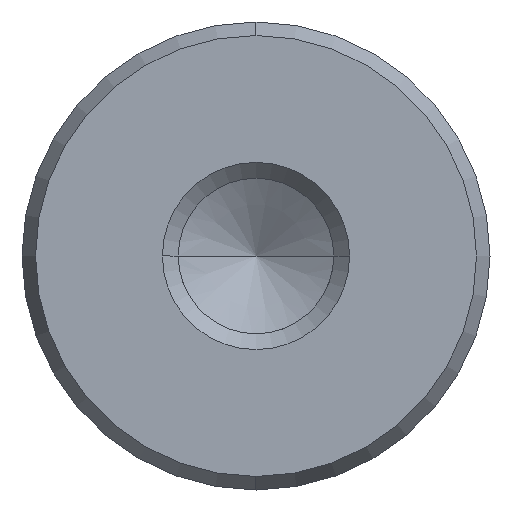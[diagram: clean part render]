
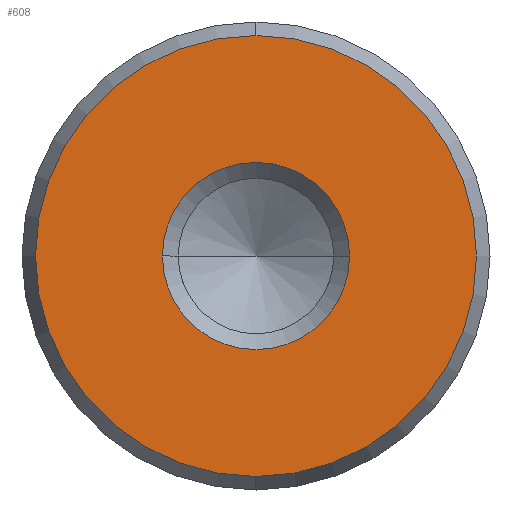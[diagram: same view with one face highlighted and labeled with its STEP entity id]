
A CAD part, left-side view. The second image highlights one B-rep face of the part: STEP entity #608.
In plain terms, the highlighted planar face has unit normal (-1, 0, 0).
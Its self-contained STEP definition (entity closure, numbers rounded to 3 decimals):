
#522=CARTESIAN_POINT('Vertex',(0.,0.,-9.423)) ;
#525=CARTESIAN_POINT('Axis2P3D Location',(0.,0.,0.)) ;
#529=CARTESIAN_POINT('Vertex',(0.,9.423,0.)) ;
#532=CARTESIAN_POINT('Axis2P3D Location',(0.,0.,0.)) ;
#536=CARTESIAN_POINT('Vertex',(0.,0.,9.423)) ;
#558=CARTESIAN_POINT('Axis2P3D Location',(0.,0.,0.)) ;
#562=CARTESIAN_POINT('Vertex',(0.,-9.423,0.)) ;
#565=CARTESIAN_POINT('Axis2P3D Location',(0.,0.,0.)) ;
#579=CARTESIAN_POINT('Axis2P3D Location',(0.,0.,0.)) ;
#590=CARTESIAN_POINT('Axis2P3D Location',(0.,0.,0.)) ;
#594=CARTESIAN_POINT('Vertex',(0.,4.,0.)) ;
#596=CARTESIAN_POINT('Vertex',(0.,-4.,0.)) ;
#599=CARTESIAN_POINT('Axis2P3D Location',(0.,0.,0.)) ;
#526=DIRECTION('Axis2P3D Direction',(1.,0.,-0.)) ;
#533=DIRECTION('Axis2P3D Direction',(1.,0.,-0.)) ;
#559=DIRECTION('Axis2P3D Direction',(1.,0.,-0.)) ;
#566=DIRECTION('Axis2P3D Direction',(1.,0.,-0.)) ;
#580=DIRECTION('Axis2P3D Direction',(1.,0.,-0.)) ;
#581=DIRECTION('Axis2P3D XDirection',(-0.,0.,-1.)) ;
#591=DIRECTION('Axis2P3D Direction',(1.,0.,-0.)) ;
#600=DIRECTION('Axis2P3D Direction',(1.,0.,-0.)) ;
#527=AXIS2_PLACEMENT_3D('Circle Axis2P3D',#525,#526,$) ;
#534=AXIS2_PLACEMENT_3D('Circle Axis2P3D',#532,#533,$) ;
#560=AXIS2_PLACEMENT_3D('Circle Axis2P3D',#558,#559,$) ;
#567=AXIS2_PLACEMENT_3D('Circle Axis2P3D',#565,#566,$) ;
#582=AXIS2_PLACEMENT_3D('Plane Axis2P3D',#579,#580,#581) ;
#592=AXIS2_PLACEMENT_3D('Circle Axis2P3D',#590,#591,$) ;
#601=AXIS2_PLACEMENT_3D('Circle Axis2P3D',#599,#600,$) ;
#585=ORIENTED_EDGE('',*,*,#531,.F.) ;
#586=ORIENTED_EDGE('',*,*,#569,.F.) ;
#587=ORIENTED_EDGE('',*,*,#564,.F.) ;
#588=ORIENTED_EDGE('',*,*,#538,.F.) ;
#605=ORIENTED_EDGE('',*,*,#598,.T.) ;
#606=ORIENTED_EDGE('',*,*,#603,.T.) ;
#607=FACE_BOUND('',#604,.T.) ;
#608=ADVANCED_FACE('720-20x200',(#589,#607),#583,.F.) ;
#528=CIRCLE('generated circle',#527,9.423) ;
#535=CIRCLE('generated circle',#534,9.423) ;
#561=CIRCLE('generated circle',#560,9.423) ;
#568=CIRCLE('generated circle',#567,9.423) ;
#593=CIRCLE('generated circle',#592,4.) ;
#602=CIRCLE('generated circle',#601,4.) ;
#531=EDGE_CURVE('',#523,#530,#528,.T.) ;
#538=EDGE_CURVE('',#530,#537,#535,.T.) ;
#564=EDGE_CURVE('',#537,#563,#561,.T.) ;
#569=EDGE_CURVE('',#563,#523,#568,.T.) ;
#598=EDGE_CURVE('',#595,#597,#593,.T.) ;
#603=EDGE_CURVE('',#597,#595,#602,.T.) ;
#584=EDGE_LOOP('',(#585,#586,#587,#588)) ;
#604=EDGE_LOOP('',(#605,#606)) ;
#589=FACE_OUTER_BOUND('',#584,.T.) ;
#583=PLANE('Plane',#582) ;
#523=VERTEX_POINT('',#522) ;
#530=VERTEX_POINT('',#529) ;
#537=VERTEX_POINT('',#536) ;
#563=VERTEX_POINT('',#562) ;
#595=VERTEX_POINT('',#594) ;
#597=VERTEX_POINT('',#596) ;
